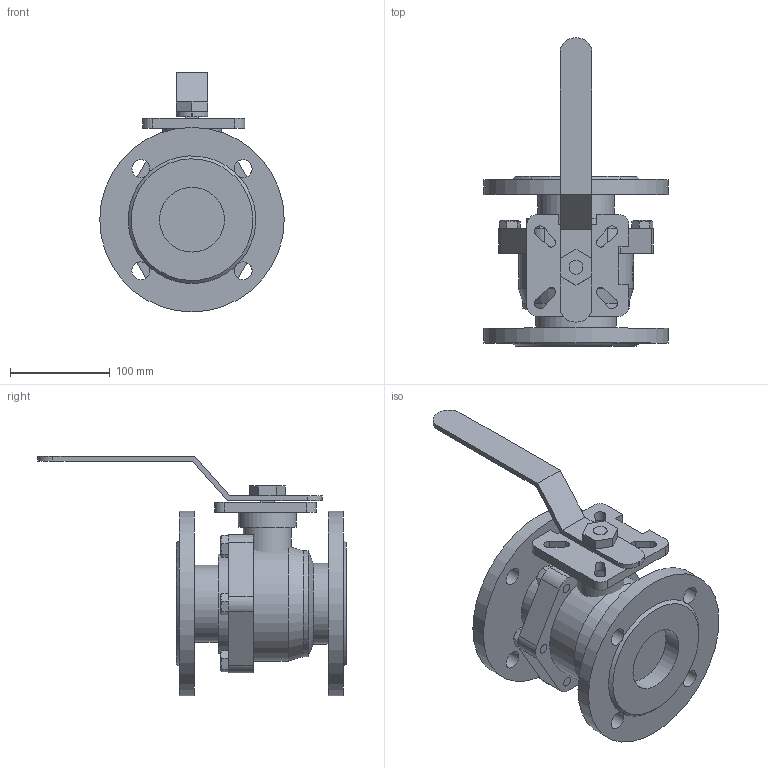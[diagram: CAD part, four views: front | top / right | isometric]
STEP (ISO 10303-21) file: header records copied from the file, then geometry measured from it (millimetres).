
FILE_DESCRIPTION(('STEP AP203'), '1');
FILE_NAME('3D_7528-065-16_2', '', ('UNSPECIFIED'), ('UNSPECIFIED'), 'C3D Converter', 'C3D Toolkit', '');
FILE_SCHEMA(('CONFIG_CONTROL_DESIGN'));
Length unit declared in the file: millimetre
Assembly tree (7 placements, depth 3):
  (unnamed)
    (unnamed)
      (unnamed)
      (unnamed)
      (unnamed)  x2
      (unnamed)  x2
Bounding box: 185 x 308.86 x 240.5 mm (x, y, z)
Volume: 2488471.6 mm3; surface area: 331302.3 mm2
Topology: 25 solids, 25 shells, 1023 faces, 2951 edges, 1980 vertices
Faces by surface type: plane 945, cylinder 56, cone 16, torus 6
Full cylindrical faces by diameter (mm): 12 x6, 14 x1, 18 x8, 48.342 x1, 58.342 x1, 65 x2, 77 x1, 81 x1, 99 x1, 106.351 x1, 115 x1, 185 x2
Entity records: 42376 total; most frequent: CARTESIAN_POINT 9878, ORIENTED_EDGE 5690, DIRECTION 4187, EDGE_CURVE 2845, VERTEX_POINT 1934, LINE 1843, VECTOR 1843, AXIS2_PLACEMENT_3D 1172
